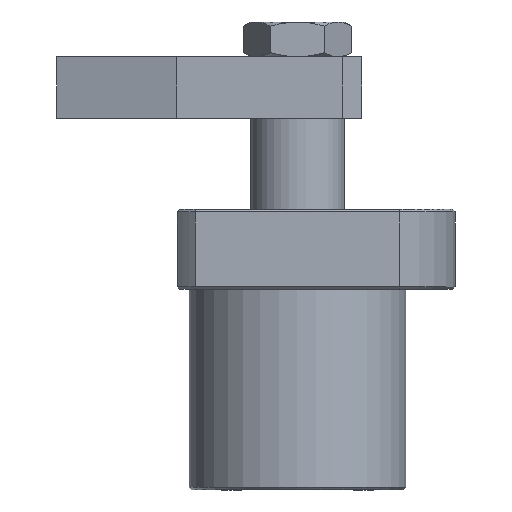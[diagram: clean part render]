
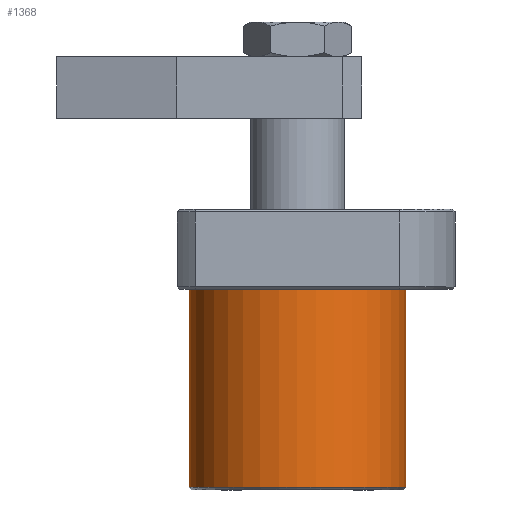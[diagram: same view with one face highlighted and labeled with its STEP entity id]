
A CAD part, front view. The second image highlights one B-rep face of the part: STEP entity #1368.
In plain terms, the highlighted cylindrical face has radius 40.5 mm (diameter 81 mm), a full revolution.
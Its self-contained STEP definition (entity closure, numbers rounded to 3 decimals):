
#88=CYLINDRICAL_SURFACE('',#1865,40.5);
#379=ORIENTED_EDGE('',*,*,#652,.T.);
#380=ORIENTED_EDGE('',*,*,#651,.F.);
#651=EDGE_CURVE('',#801,#801,#915,.T.);
#652=EDGE_CURVE('',#802,#802,#916,.T.);
#801=VERTEX_POINT('',#2606);
#802=VERTEX_POINT('',#2609);
#915=CIRCLE('',#1864,40.5);
#916=CIRCLE('',#1866,40.5);
#1029=EDGE_LOOP('',(#379));
#1030=EDGE_LOOP('',(#380));
#1199=FACE_BOUND('',#1029,.T.);
#1200=FACE_BOUND('',#1030,.T.);
#1368=ADVANCED_FACE('',(#1199,#1200),#88,.T.);
#1864=AXIS2_PLACEMENT_3D('',#2605,#2152,#2153);
#1865=AXIS2_PLACEMENT_3D('',#2607,#2154,#2155);
#1866=AXIS2_PLACEMENT_3D('',#2608,#2156,#2157);
#2152=DIRECTION('',(0.,0.,1.));
#2153=DIRECTION('',(0.,-1.,0.));
#2154=DIRECTION('',(0.,0.,1.));
#2155=DIRECTION('',(0.,-1.,0.));
#2156=DIRECTION('',(0.,0.,1.));
#2157=DIRECTION('',(1.,0.,0.));
#2605=CARTESIAN_POINT('',(15.5,47.,-12.5));
#2606=CARTESIAN_POINT('',(15.5,6.5,-12.5));
#2607=CARTESIAN_POINT('',(15.5,47.,-87.5));
#2608=CARTESIAN_POINT('',(15.5,47.,-86.5));
#2609=CARTESIAN_POINT('',(56.,47.,-86.5));
